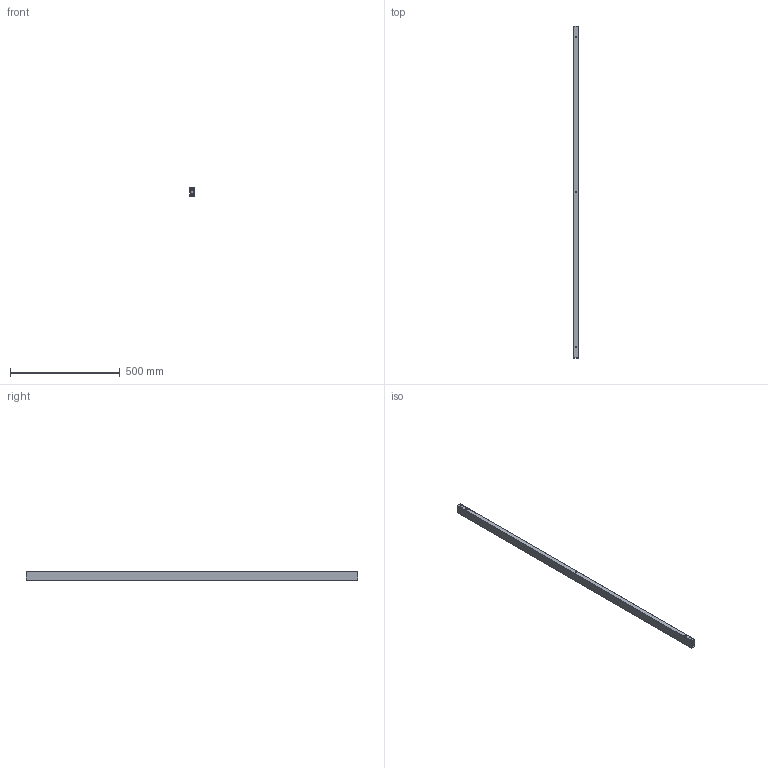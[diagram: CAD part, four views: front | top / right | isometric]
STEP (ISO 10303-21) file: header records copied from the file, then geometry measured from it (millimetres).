
FILE_DESCRIPTION( ( 'STEP AP214' ), '1' );
FILE_NAME( 'D:/Yug/2021/Delta/desk_and_office_organisation/QC/46014.stp', '2021-01-22T12:16:29', ( '' ), ( '' ), ' ', 'PARTsolutions', ' ' );
FILE_SCHEMA( ( 'AUTOMOTIVE_DESIGN { 1 0 10303 214 1 1 1 1 }' ) );
Length unit declared in the file: millimetre
Products named in the file (1): _46014
Bounding box: 20 x 1510 x 41.5 mm (x, y, z)
Volume: 266828.6 mm3; surface area: 347346 mm2
Topology: 1 solids, 1 shells, 33 faces, 98 edges, 69 vertices
Faces by surface type: cylinder 21, plane 12
Full cylindrical faces by diameter (mm): 8 x4, 8.3 x5, 9 x8, 12.5 x2, 14.5 x2
Entity records: 1826 total; most frequent: CARTESIAN_POINT 710, DIRECTION 160, ORIENTED_EDGE 132, EDGE_LOOP 96, AXIS2_PLACEMENT_3D 68, EDGE_CURVE 66, VERTEX_POINT 58, FACE_OUTER_BOUND 54
